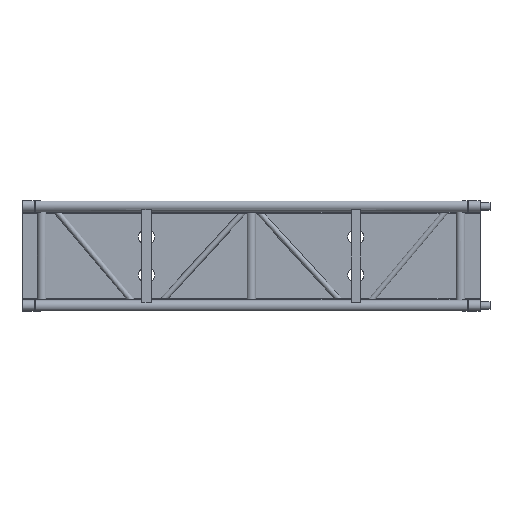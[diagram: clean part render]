
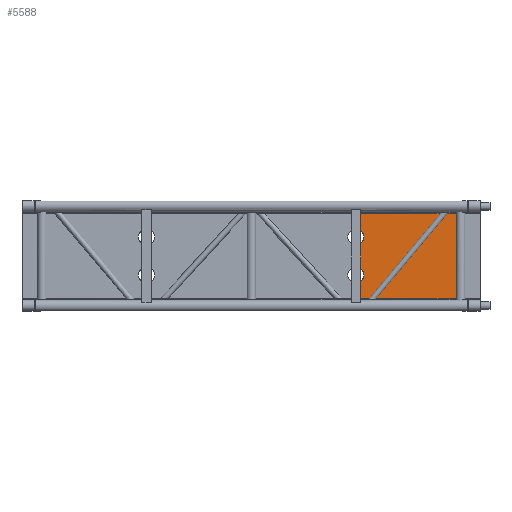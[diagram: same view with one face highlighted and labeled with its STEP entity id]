
A CAD part, front view. The second image highlights one B-rep face of the part: STEP entity #5588.
In plain terms, the highlighted planar face has unit normal (0, -1, 0).
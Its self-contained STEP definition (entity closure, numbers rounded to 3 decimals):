
#553=CIRCLE('',#5935,37.5);
#554=CIRCLE('',#5936,37.5);
#780=FACE_OUTER_BOUND('',#1110,.T.);
#1110=EDGE_LOOP('',(#3531,#3532,#3533,#3534,#3535,#3536,#3537,#3538));
#1617=LINE('',#8144,#1929);
#1618=LINE('',#8148,#1930);
#1619=LINE('',#8150,#1931);
#1620=LINE('',#8152,#1932);
#1621=LINE('',#8154,#1933);
#1622=LINE('',#8156,#1934);
#1929=VECTOR('',#6571,10.);
#1930=VECTOR('',#6574,10.);
#1931=VECTOR('',#6575,10.);
#1932=VECTOR('',#6576,10.);
#1933=VECTOR('',#6577,10.);
#1934=VECTOR('',#6578,10.);
#2241=VERTEX_POINT('',#8142);
#2242=VERTEX_POINT('',#8143);
#2243=VERTEX_POINT('',#8145);
#2244=VERTEX_POINT('',#8147);
#2245=VERTEX_POINT('',#8149);
#2246=VERTEX_POINT('',#8151);
#2247=VERTEX_POINT('',#8153);
#2248=VERTEX_POINT('',#8155);
#2765=EDGE_CURVE('',#2241,#2242,#1617,.T.);
#2766=EDGE_CURVE('',#2241,#2243,#553,.T.);
#2767=EDGE_CURVE('',#2244,#2243,#1618,.T.);
#2768=EDGE_CURVE('',#2244,#2245,#1619,.T.);
#2769=EDGE_CURVE('',#2246,#2245,#1620,.T.);
#2770=EDGE_CURVE('',#2247,#2246,#1621,.T.);
#2771=EDGE_CURVE('',#2248,#2247,#1622,.T.);
#2772=EDGE_CURVE('',#2248,#2242,#554,.T.);
#3531=ORIENTED_EDGE('',*,*,#2765,.F.);
#3532=ORIENTED_EDGE('',*,*,#2766,.T.);
#3533=ORIENTED_EDGE('',*,*,#2767,.F.);
#3534=ORIENTED_EDGE('',*,*,#2768,.T.);
#3535=ORIENTED_EDGE('',*,*,#2769,.F.);
#3536=ORIENTED_EDGE('',*,*,#2770,.F.);
#3537=ORIENTED_EDGE('',*,*,#2771,.F.);
#3538=ORIENTED_EDGE('',*,*,#2772,.T.);
#5060=PLANE('',#5934);
#5588=ADVANCED_FACE('',(#780),#5060,.T.);
#5934=AXIS2_PLACEMENT_3D('',#8141,#6569,#6570);
#5935=AXIS2_PLACEMENT_3D('',#8146,#6572,#6573);
#5936=AXIS2_PLACEMENT_3D('',#8157,#6579,#6580);
#6569=DIRECTION('center_axis',(0.,-1.,0.));
#6570=DIRECTION('ref_axis',(0.,0.,-1.));
#6571=DIRECTION('',(0.,0.,1.));
#6572=DIRECTION('center_axis',(0.,1.,0.));
#6573=DIRECTION('ref_axis',(0.,0.,1.));
#6574=DIRECTION('',(0.,0.,1.));
#6575=DIRECTION('',(1.,0.,0.));
#6576=DIRECTION('',(0.,0.,-1.));
#6577=DIRECTION('',(1.,0.,0.));
#6578=DIRECTION('',(0.,0.,1.));
#6579=DIRECTION('center_axis',(0.,1.,0.));
#6580=DIRECTION('ref_axis',(0.,0.,
1.));
#8141=CARTESIAN_POINT('Origin',(1747.075,74.,-490.));
#8142=CARTESIAN_POINT('',(1772.925,74.,-327.831));
#8143=CARTESIAN_POINT('',(1772.925,74.,-192.169));
#8144=CARTESIAN_POINT('',(1772.925,74.,-503.));
#8145=CARTESIAN_POINT('',(1772.925,74.,-390.169));
#8146=CARTESIAN_POINT('Origin',(1752.075,74.,-359.));
#8147=CARTESIAN_POINT('',(1772.925,74.,-490.));
#8148=CARTESIAN_POINT('',(1772.925,74.,-503.));
#8149=CARTESIAN_POINT('',(2293.163,74.,-490.));
#8150=CARTESIAN_POINT('',(1747.075,74.,-490.));
#8151=CARTESIAN_POINT('',(2293.163,74.,-30.));
#8152=CARTESIAN_POINT('',(2293.163,74.,-260.));
#8153=CARTESIAN_POINT('',(1772.925,74.,-30.));
#8154=CARTESIAN_POINT('',(1747.075,74.,-30.));
#8155=CARTESIAN_POINT('',(1772.925,74.,-129.831));
#8156=CARTESIAN_POINT('',(1772.925,74.,-503.));
#8157=CARTESIAN_POINT('Origin',(1752.075,74.,-161.));
